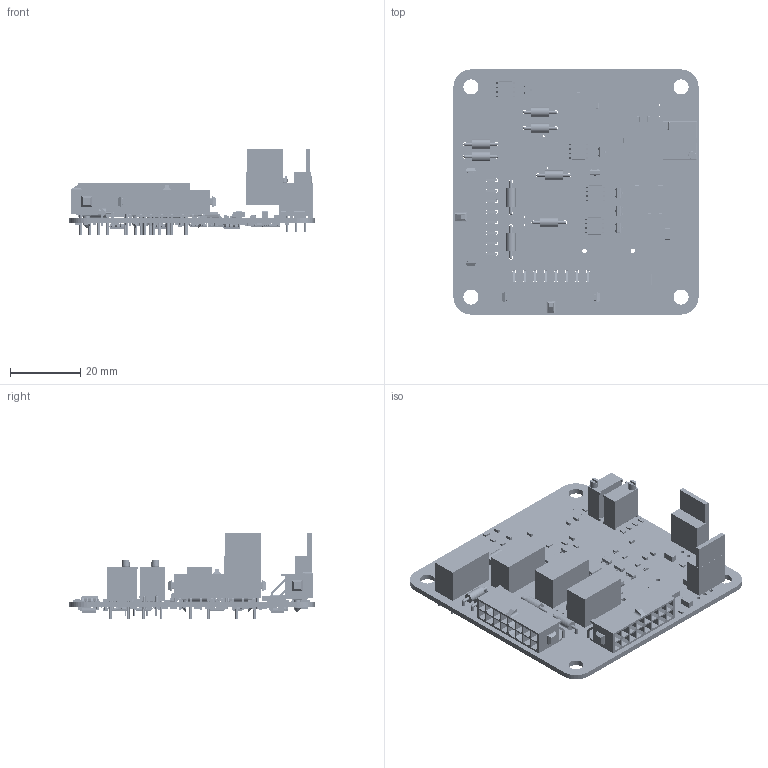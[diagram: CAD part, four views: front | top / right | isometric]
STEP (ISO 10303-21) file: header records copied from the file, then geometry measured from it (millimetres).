
FILE_DESCRIPTION(/* description */ (''),/* implementation_level */ '2;1');
FILE_NAME(/* name */ 'PCB.stp',/* time_stamp */ '2024-02-16T14:22:36+11:00',/* author */ ('sebas'),/* organization */ (''),/* preprocessor_version */ 'ST-DEVELOPER v19.2',/* originating_system */ 'Autodesk Inventor 2024',/* authorisation */ '');
FILE_SCHEMA (('AUTOMOTIVE_DESIGN { 1 0 10303 214 3 1 1 }'));
Products named in the file (1): temp
Bounding box: 70 x 70 x 24.7 mm (x, y, z)
Volume: 15979.1 mm3; surface area: 23854.6 mm2
Topology: 773 solids, 773 shells, 15669 faces, 40791 edges, 26681 vertices
Faces by surface type: plane 8937, bspline 3342, cylinder 2968, sphere 376, torus 42, cone 4
Full cylindrical faces by diameter (mm): 0.163 x11, 0.487 x7, 0.508 x12, 0.7 x6, 0.8 x43, 0.86 x32, 1 x40, 1.02 x32, 1.1 x6, 1.15 x16, 1.3 x2, 2.184 x2, 2.72 x8, 3 x4, 4.3 x4
Entity records: 503892 total; most frequent: CARTESIAN_POINT 129714, ORIENTED_EDGE 81478, DIRECTION 70273, EDGE_CURVE 40739, LINE 28141, VECTOR 28141, VERTEX_POINT 26681, AXIS2_PLACEMENT_3D 21066
